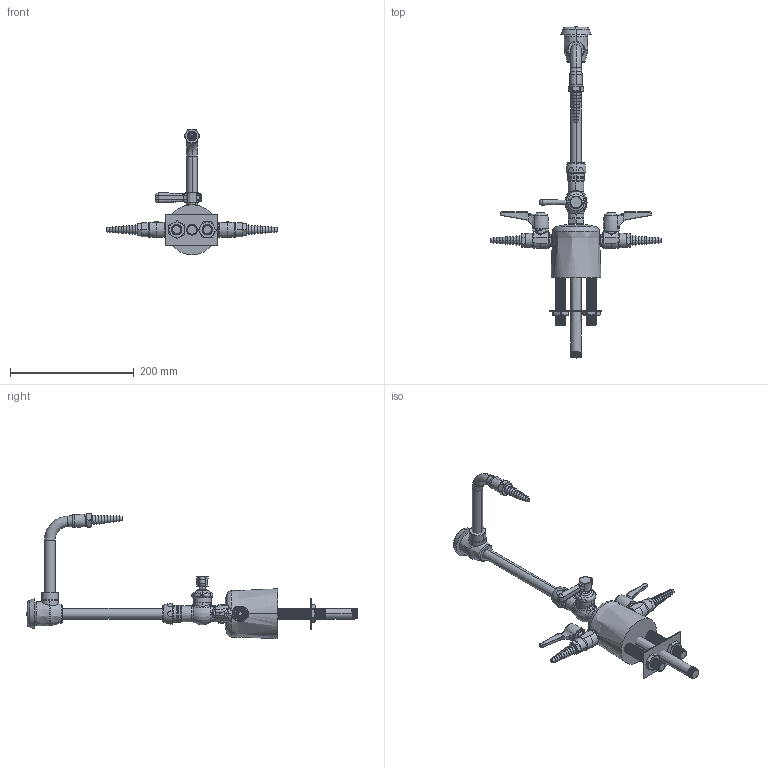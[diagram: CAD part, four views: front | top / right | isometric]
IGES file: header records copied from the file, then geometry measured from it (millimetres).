
Start section:  PTC IGES file: LCF1-AA-A3B1.igs
Global section: file name: LCF1-AA-A3B1.igs; native system: Creo Parametric by PTC Inc.; preprocessor: 2014500; author: usch_engrender; organization: Unknown; date: 20160205.085807; units: inch
Bounding box: 276.86 x 536.51 x 202.83 mm (x, y, z)
Surface area: 146193.9 mm2 (no closed solid volume)
Topology: 0 solids, 99 shells, 1052 faces, 2970 edges, 1952 vertices
Faces by surface type: revolution 678, bspline 374
